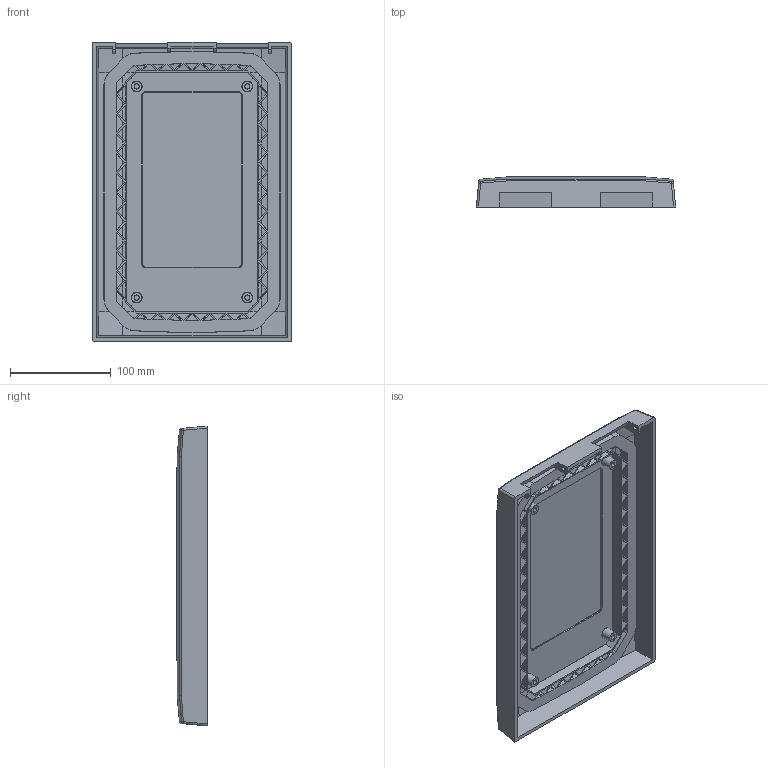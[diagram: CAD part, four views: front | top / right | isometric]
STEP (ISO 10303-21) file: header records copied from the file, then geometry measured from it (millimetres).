
FILE_DESCRIPTION (( 'STEP AP214' ), '1' );
FILE_NAME ('BXPFAT200300150-P01', '2015-01-16T11:35:17', ( '' ), ( '' ), 'SwSTEP 2.0', 'SolidWorks 2014', '' );
FILE_SCHEMA (( 'AUTOMOTIVE_DESIGN' ));
Length unit declared in the file: millimetre
Products named in the file (3): BXPFAT200300150-P01
Assembly tree (2 placements, depth 2):
  BXPFAT200300150-P01
    BXPFAT200300150-P01
    BXPFAT200300150-P01
Bounding box: 198 x 30.5 x 298 mm (x, y, z)
Volume: 447867.5 mm3; surface area: 220169.3 mm2
Topology: 2 solids, 2 shells, 584 faces, 1450 edges, 950 vertices
Faces by surface type: plane 468, cylinder 56, cone 32, bspline 28
Entity records: 24336 total; most frequent: CARTESIAN_POINT 4058, ORIENTED_EDGE 2900, DIRECTION 2618, EDGE_CURVE 1450, LINE 1208, VECTOR 1208, VERTEX_POINT 950, AXIS2_PLACEMENT_3D 705
